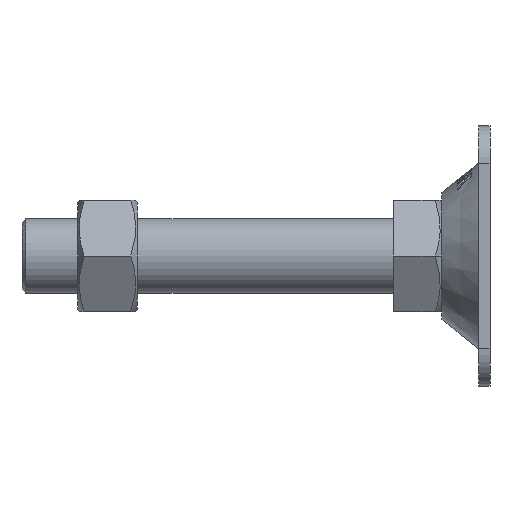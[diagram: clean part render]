
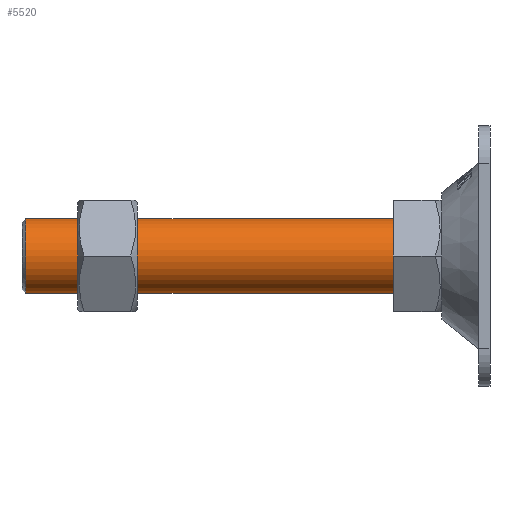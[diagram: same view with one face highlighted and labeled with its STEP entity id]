
A CAD part, left-side view. The second image highlights one B-rep face of the part: STEP entity #5520.
In plain terms, the highlighted cylindrical face has radius 10 mm (diameter 20 mm), a partial arc.
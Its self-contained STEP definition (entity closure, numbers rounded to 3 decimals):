
#99 = CARTESIAN_POINT ( 'NONE',  ( 0., 13., -10. ) ) ;
#255 = CARTESIAN_POINT ( 'NONE',  ( 0., 112., 0. ) ) ;
#332 = EDGE_LOOP ( 'NONE', ( #1990, #2807, #3688, #4100 ) ) ;
#548 = LINE ( 'NONE', #2936, #2760 ) ;
#610 = CARTESIAN_POINT ( 'NONE',  ( 0., 13., 0. ) ) ;
#635 = EDGE_CURVE ( 'NONE', #4362, #4705, #851, .T. ) ;
#812 = CYLINDRICAL_SURFACE ( 'NONE', #5444, 10. ) ;
#851 = CIRCLE ( 'NONE', #1636, 10. ) ;
#893 = CARTESIAN_POINT ( 'NONE',  ( 0., 13., 10. ) ) ;
#1016 = DIRECTION ( 'NONE',  ( 0., 1., 0. ) ) ;
#1311 = VERTEX_POINT ( 'NONE', #893 ) ;
#1337 = CARTESIAN_POINT ( 'NONE',  ( 0., 11., 0. ) ) ;
#1636 = AXIS2_PLACEMENT_3D ( 'NONE', #255, #2146, #5930 ) ;
#1953 = EDGE_CURVE ( 'NONE', #4705, #5676, #3875, .T. ) ;
#1990 = ORIENTED_EDGE ( 'NONE', *, *, #4126, .F. ) ;
#2146 = DIRECTION ( 'NONE',  ( 0., -1., 0. ) ) ;
#2259 = VECTOR ( 'NONE', #2884, 1000. ) ;
#2644 = DIRECTION ( 'NONE',  ( 0., 0., -1. ) ) ;
#2703 = FACE_OUTER_BOUND ( 'NONE', #332, .T. ) ;
#2760 = VECTOR ( 'NONE', #4450, 1000. ) ;
#2807 = ORIENTED_EDGE ( 'NONE', *, *, #635, .T. ) ;
#2884 = DIRECTION ( 'NONE',  ( 0., -1., 0. ) ) ;
#2914 = CARTESIAN_POINT ( 'NONE',  ( 0., 11., -10. ) ) ;
#2936 = CARTESIAN_POINT ( 'NONE',  ( 0., 11., 10. ) ) ;
#3344 = DIRECTION ( 'NONE',  ( 0., 0., 1. ) ) ;
#3688 = ORIENTED_EDGE ( 'NONE', *, *, #1953, .T. ) ;
#3875 = LINE ( 'NONE', #2914, #2259 ) ;
#4100 = ORIENTED_EDGE ( 'NONE', *, *, #5182, .T. ) ;
#4126 = EDGE_CURVE ( 'NONE', #4362, #1311, #548, .T. ) ;
#4362 = VERTEX_POINT ( 'NONE', #4884 ) ;
#4450 = DIRECTION ( 'NONE',  ( 0., -1., 0. ) ) ;
#4705 = VERTEX_POINT ( 'NONE', #5389 ) ;
#4859 = AXIS2_PLACEMENT_3D ( 'NONE', #610, #1016, #3344 ) ;
#4884 = CARTESIAN_POINT ( 'NONE',  ( 0., 112., 10. ) ) ;
#5003 = DIRECTION ( 'NONE',  ( 0., -1., 0. ) ) ;
#5182 = EDGE_CURVE ( 'NONE', #5676, #1311, #5843, .T. ) ;
#5389 = CARTESIAN_POINT ( 'NONE',  ( 0., 112., -10. ) ) ;
#5444 = AXIS2_PLACEMENT_3D ( 'NONE', #1337, #5003, #2644 ) ;
#5520 = ADVANCED_FACE ( 'NONE', ( #2703 ), #812, .T. ) ;
#5676 = VERTEX_POINT ( 'NONE', #99 ) ;
#5843 = CIRCLE ( 'NONE', #4859, 10. ) ;
#5930 = DIRECTION ( 'NONE',  ( 0., 0., -1. ) ) ;
